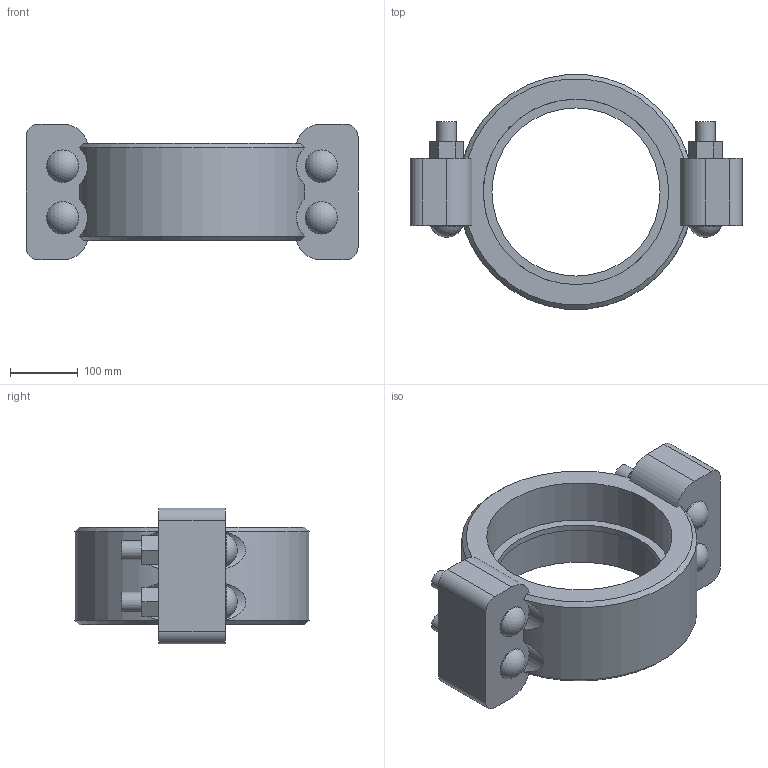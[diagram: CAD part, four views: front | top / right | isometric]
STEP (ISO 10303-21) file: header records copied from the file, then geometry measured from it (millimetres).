
FILE_DESCRIPTION(/* description */ ('VIC HIGH-PRESSURE COUPLING STYLE 809N ','CAx-IF Rec.Pracs.---Representation and Presentation of Product Manufacturing Information (PMI)---4.0---2014-10-13'),/* implementation_level */ '2;1');
FILE_NAME(/* name */ 'C:\Users\kkamble\AppData\Roaming\Autodesk\ApplicationPlugins\Back Up\Victaulic_Vic-Ring_Coupling Flexible High-Pressure_Style 809N (OGR)\Victaulic_Vic-Ring_Coupling Flexible High-Pressure_Style 809N (OGR)_10 (250).stp',/* time_stamp */ '2020-09-15T20:14:27+06:00',/* author */ ('jbrannon'),/* organization */ ('Victaulic'),/* preprocessor_version */ 'ST-DEVELOPER v17.2',/* originating_system */ 'Autodesk Inventor 2019',/* authorisation */ '');
FILE_SCHEMA (('AP242_MANAGED_MODEL_BASED_3D_ENGINEERING_MIM_LF { 1 0 10303 442 1 1 4 }'));
Length unit declared in the file: inch
Products named in the file (1): 809N-10.0
Bounding box: 488.95 x 344.94 x 200.15 mm (x, y, z)
Volume: 8202758.1 mm3; surface area: 585896.2 mm2
Topology: 1 solids, 5 shells, 111 faces, 289 edges, 202 vertices
Faces by surface type: plane 62, cylinder 41, sphere 4, cone 4
Full cylindrical faces by diameter (mm): 28.575 x8, 47.625 x4, 247.65 x1, 273.05 x2
Entity records: 3962 total; most frequent: CARTESIAN_POINT 892, DIRECTION 621, ORIENTED_EDGE 578, EDGE_CURVE 289, AXIS2_PLACEMENT_3D 231, VERTEX_POINT 202, LINE 159, VECTOR 159
